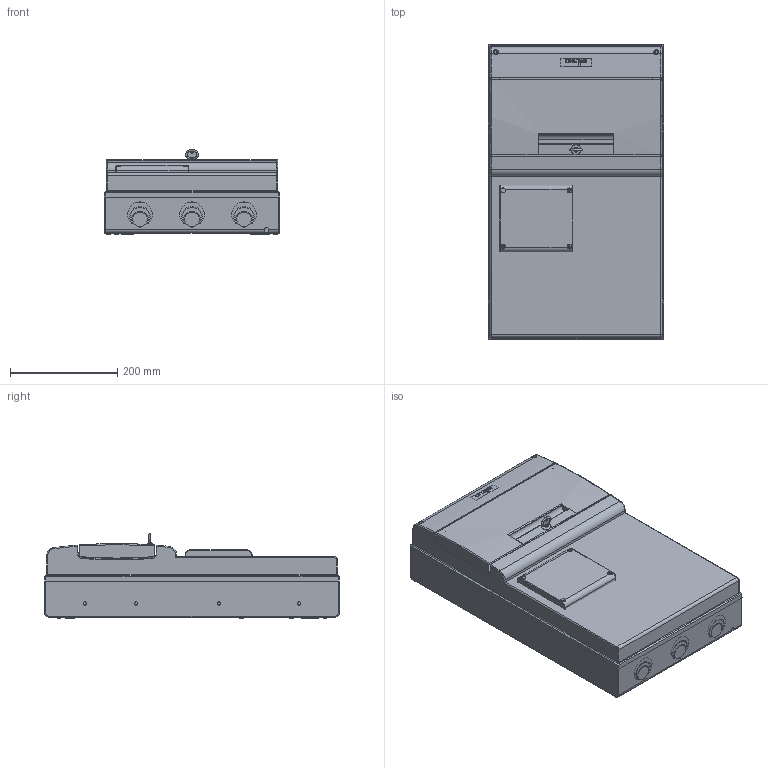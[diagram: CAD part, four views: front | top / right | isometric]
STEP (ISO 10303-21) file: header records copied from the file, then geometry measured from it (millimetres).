
FILE_DESCRIPTION(/* description */ (''),/* implementation_level */ '2;1');
FILE_NAME(/* name */ '4004176.stp',/* time_stamp */ '2016-09-26T08:48:57+02:00',/* author */ (''),/* organization */ (''),/* preprocessor_version */ 'ST-DEVELOPER v16',/* originating_system */ 'SIEMENS PLM Software NX 11.0',/* authorisation */ '');
FILE_SCHEMA (('AUTOMOTIVE_DESIGN { 1 0 10303 214 3 1 1 1 }'));
Length unit declared in the file: millimetre
Products named in the file (1): 4004176_LINKEDEXT_jt
Bounding box: 328 x 550 x 158.74 mm (x, y, z)
Surface area: 826915.1 mm2 (no closed solid volume)
Topology: 0 solids, 81 shells, 318 faces, 1577 edges, 1311 vertices
Faces by surface type: plane 83, cylinder 68, torus 67, cone 55, bspline 42, sphere 3
Full cylindrical faces by diameter (mm): 8.7 x1, 9.5 x2, 22 x1
Entity records: 21060 total; most frequent: CARTESIAN_POINT 7691, DIRECTION 2446, ORIENTED_EDGE 1867, EDGE_CURVE 1459, VERTEX_POINT 1261, AXIS2_PLACEMENT_3D 957, CIRCLE 627, LINE 532
